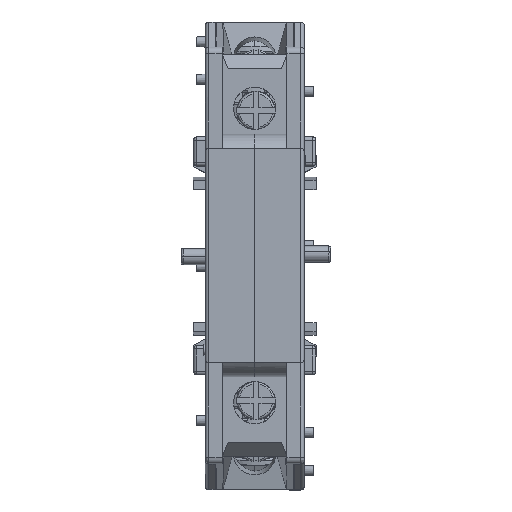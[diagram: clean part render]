
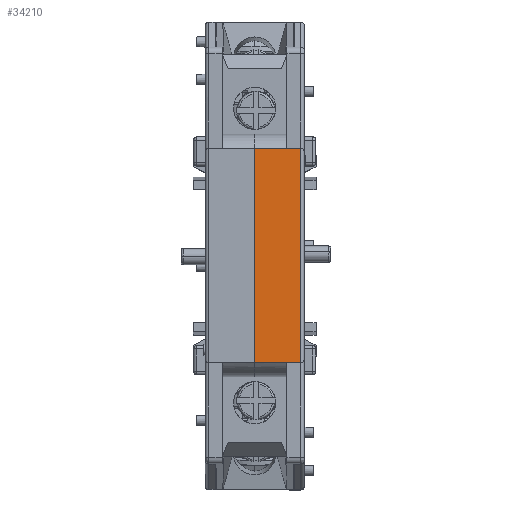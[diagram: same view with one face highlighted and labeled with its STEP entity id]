
A CAD part, top view. The second image highlights one B-rep face of the part: STEP entity #34210.
In plain terms, the highlighted planar face has unit normal (0, 0, 1) as drawn and (0, 1, 0) by its records, which use the part's own axes.
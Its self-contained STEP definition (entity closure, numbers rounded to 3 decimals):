
#121 = EDGE_CURVE ( 'NONE', #11174, #29715, #13564, .T. ) ;
#1831 = VECTOR ( 'NONE', #48475, 1000. ) ;
#2222 = LINE ( 'NONE', #25314, #1831 ) ;
#3602 = LINE ( 'NONE', #61585, #64433 ) ;
#6378 = VECTOR ( 'NONE', #13946, 1000. ) ;
#8934 = DIRECTION ( 'NONE',  ( 0., 0., 1. ) ) ;
#10457 = ORIENTED_EDGE ( 'NONE', *, *, #69797, .T. ) ;
#11174 = VERTEX_POINT ( 'NONE', #59712 ) ;
#12760 = CARTESIAN_POINT ( 'NONE',  ( -16.5, 29.6, 0.5 ) ) ;
#13564 = LINE ( 'NONE', #43866, #6378 ) ;
#13946 = DIRECTION ( 'NONE',  ( -1., 0., 0. ) ) ;
#19338 = DIRECTION ( 'NONE',  ( 1., 0., 0. ) ) ;
#20312 = ORIENTED_EDGE ( 'NONE', *, *, #51660, .T. ) ;
#24776 = ORIENTED_EDGE ( 'NONE', *, *, #31635, .F. ) ;
#25041 = DIRECTION ( 'NONE',  ( 0., 0., -1. ) ) ;
#25314 = CARTESIAN_POINT ( 'NONE',  ( -16.5, 29.6, 0.5 ) ) ;
#29715 = VERTEX_POINT ( 'NONE', #63662 ) ;
#30724 = LINE ( 'NONE', #48944, #67953 ) ;
#31635 = EDGE_CURVE ( 'NONE', #56319, #54246, #2222, .T. ) ;
#32164 = AXIS2_PLACEMENT_3D ( 'NONE', #59546, #34896, #19338 ) ;
#34210 = ADVANCED_FACE ( 'NONE', ( #53853 ), #42115, .T. ) ;
#34896 = DIRECTION ( 'NONE',  ( 0., 1., 0. ) ) ;
#42115 = PLANE ( 'NONE',  #32164 ) ;
#43866 = CARTESIAN_POINT ( 'NONE',  ( 16.5, 29.6, 7.6 ) ) ;
#46442 = ORIENTED_EDGE ( 'NONE', *, *, #121, .F. ) ;
#48475 = DIRECTION ( 'NONE',  ( 1., 0., 0. ) ) ;
#48944 = CARTESIAN_POINT ( 'NONE',  ( 16.5, 29.6, 7.6 ) ) ;
#51660 = EDGE_CURVE ( 'NONE', #56319, #29715, #3602, .T. ) ;
#53557 = CARTESIAN_POINT ( 'NONE',  ( 16.5, 29.6, 0.5 ) ) ;
#53853 = FACE_OUTER_BOUND ( 'NONE', #57317, .T. ) ;
#54246 = VERTEX_POINT ( 'NONE', #53557 ) ;
#56319 = VERTEX_POINT ( 'NONE', #12760 ) ;
#57317 = EDGE_LOOP ( 'NONE', ( #20312, #46442, #10457, #24776 ) ) ;
#59546 = CARTESIAN_POINT ( 'NONE',  ( 35.95, 29.6, 0. ) ) ;
#59712 = CARTESIAN_POINT ( 'NONE',  ( 16.5, 29.6, 7.6 ) ) ;
#61585 = CARTESIAN_POINT ( 'NONE',  ( -16.5, 29.6, 0.5 ) ) ;
#63662 = CARTESIAN_POINT ( 'NONE',  ( -16.5, 29.6, 7.6 ) ) ;
#64433 = VECTOR ( 'NONE', #8934, 1000. ) ;
#67953 = VECTOR ( 'NONE', #25041, 1000. ) ;
#69797 = EDGE_CURVE ( 'NONE', #11174, #54246, #30724, .T. ) ;
